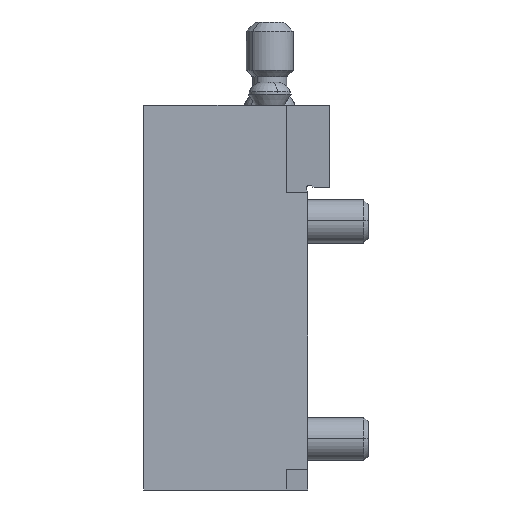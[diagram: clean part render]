
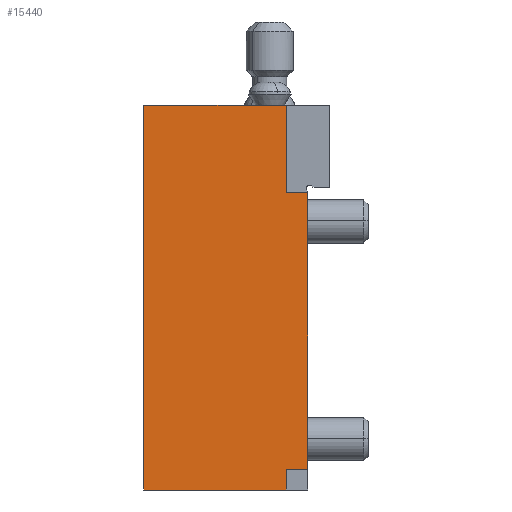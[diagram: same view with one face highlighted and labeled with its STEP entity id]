
A CAD part, left-side view. The second image highlights one B-rep face of the part: STEP entity #15440.
In plain terms, the highlighted planar face has unit normal (-1, 0, 0).
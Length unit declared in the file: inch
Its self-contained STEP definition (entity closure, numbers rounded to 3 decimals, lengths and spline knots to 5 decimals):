
#167 = DIRECTION ( 'NONE',  ( 0., 0., 1. ) ) ;
#743 = VECTOR ( 'NONE', #16013, 39.37008 ) ;
#928 = ORIENTED_EDGE ( 'NONE', *, *, #10709, .F. ) ;
#1351 = EDGE_CURVE ( 'NONE', #2557, #4679, #1993, .T. ) ;
#1543 = LINE ( 'NONE', #4559, #11084 ) ;
#1993 = LINE ( 'NONE', #4901, #18281 ) ;
#2211 = VECTOR ( 'NONE', #13235, 39.37008 ) ;
#2533 = VECTOR ( 'NONE', #4749, 39.37008 ) ;
#2557 = VERTEX_POINT ( 'NONE', #7389 ) ;
#2834 = CARTESIAN_POINT ( 'NONE',  ( -1.77165, -0.55, 2.72 ) ) ;
#3112 = EDGE_LOOP ( 'NONE', ( #928, #18178, #16291, #8480, #13246, #12188, #8167, #12120, #5776 ) ) ;
#3220 = CARTESIAN_POINT ( 'NONE',  ( -1.77165, -0.95, 3.52 ) ) ;
#3839 = VERTEX_POINT ( 'NONE', #12175 ) ;
#4268 = EDGE_CURVE ( 'NONE', #10087, #2557, #13735, .T. ) ;
#4404 = CARTESIAN_POINT ( 'NONE',  ( -1.77165, -0.95, 2.72 ) ) ;
#4515 = EDGE_CURVE ( 'NONE', #18878, #9438, #10335, .T. ) ;
#4559 = CARTESIAN_POINT ( 'NONE',  ( -1.77165, -0.75, 0. ) ) ;
#4679 = VERTEX_POINT ( 'NONE', #4804 ) ;
#4749 = DIRECTION ( 'NONE',  ( 0., 1., 0. ) ) ;
#4804 = CARTESIAN_POINT ( 'NONE',  ( -1.77165, 0.75, 0. ) ) ;
#4901 = CARTESIAN_POINT ( 'NONE',  ( -1.77165, 0.75, 3.52 ) ) ;
#5316 = CARTESIAN_POINT ( 'NONE',  ( -1.77165, -0.95, 3.52 ) ) ;
#5450 = DIRECTION ( 'NONE',  ( 0., -1., 0. ) ) ;
#5616 = EDGE_CURVE ( 'NONE', #13243, #3839, #1543, .T. ) ;
#5640 = LINE ( 'NONE', #11656, #5748 ) ;
#5748 = VECTOR ( 'NONE', #17739, 39.37008 ) ;
#5776 = ORIENTED_EDGE ( 'NONE', *, *, #1351, .T. ) ;
#5823 = EDGE_CURVE ( 'NONE', #9438, #10087, #17532, .T. ) ;
#5851 = CARTESIAN_POINT ( 'NONE',  ( -1.77165, -0.74581, 2.72 ) ) ;
#5859 = EDGE_CURVE ( 'NONE', #18878, #3839, #13333, .T. ) ;
#6621 = CARTESIAN_POINT ( 'NONE',  ( -1.77165, -0.55, 0.19 ) ) ;
#7389 = CARTESIAN_POINT ( 'NONE',  ( -1.77165, 0.75, 3.52 ) ) ;
#7965 = CARTESIAN_POINT ( 'NONE',  ( -1.77165, -0.55, 2.72 ) ) ;
#8167 = ORIENTED_EDGE ( 'NONE', *, *, #5823, .T. ) ;
#8480 = ORIENTED_EDGE ( 'NONE', *, *, #5616, .T. ) ;
#9264 = DIRECTION ( 'NONE',  ( -1., 0., 0. ) ) ;
#9438 = VERTEX_POINT ( 'NONE', #7965 ) ;
#9871 = AXIS2_PLACEMENT_3D ( 'NONE', #3220, #9264, #12410 ) ;
#10072 = DIRECTION ( 'NONE',  ( 0., -0.342, -0.94 ) ) ;
#10087 = VERTEX_POINT ( 'NONE', #15686 ) ;
#10166 = VERTEX_POINT ( 'NONE', #13184 ) ;
#10335 = LINE ( 'NONE', #4404, #12714 ) ;
#10572 = CARTESIAN_POINT ( 'NONE',  ( -1.77165, -0.95, 0. ) ) ;
#10709 = EDGE_CURVE ( 'NONE', #10166, #4679, #18331, .T. ) ;
#10892 = LINE ( 'NONE', #6621, #17145 ) ;
#11084 = VECTOR ( 'NONE', #167, 39.37008 ) ;
#11656 = CARTESIAN_POINT ( 'NONE',  ( -1.77165, -0.55, 0.19 ) ) ;
#12120 = ORIENTED_EDGE ( 'NONE', *, *, #4268, .T. ) ;
#12175 = CARTESIAN_POINT ( 'NONE',  ( -1.77165, -0.75, 2.7085 ) ) ;
#12188 = ORIENTED_EDGE ( 'NONE', *, *, #4515, .T. ) ;
#12310 = PLANE ( 'NONE',  #9871 ) ;
#12410 = DIRECTION ( 'NONE',  ( 0., -1., 0. ) ) ;
#12714 = VECTOR ( 'NONE', #16488, 39.37008 ) ;
#13164 = EDGE_CURVE ( 'NONE', #14226, #13243, #10892, .T. ) ;
#13184 = CARTESIAN_POINT ( 'NONE',  ( -1.77165, -0.55, 0. ) ) ;
#13235 = DIRECTION ( 'NONE',  ( 0., 0., 1. ) ) ;
#13243 = VERTEX_POINT ( 'NONE', #17249 ) ;
#13246 = ORIENTED_EDGE ( 'NONE', *, *, #5859, .F. ) ;
#13333 = LINE ( 'NONE', #16415, #15158 ) ;
#13430 = EDGE_CURVE ( 'NONE', #14226, #10166, #5640, .T. ) ;
#13735 = LINE ( 'NONE', #5316, #743 ) ;
#14226 = VERTEX_POINT ( 'NONE', #18159 ) ;
#15158 = VECTOR ( 'NONE', #10072, 39.37008 ) ;
#15440 = ADVANCED_FACE ( 'NONE', ( #16806 ), #12310, .T. ) ;
#15686 = CARTESIAN_POINT ( 'NONE',  ( -1.77165, -0.55, 3.52 ) ) ;
#16013 = DIRECTION ( 'NONE',  ( 0., 1., 0. ) ) ;
#16291 = ORIENTED_EDGE ( 'NONE', *, *, #13164, .T. ) ;
#16415 = CARTESIAN_POINT ( 'NONE',  ( -1.77165, -0.73681, 2.74474 ) ) ;
#16488 = DIRECTION ( 'NONE',  ( 0., 1., 0. ) ) ;
#16806 = FACE_OUTER_BOUND ( 'NONE', #3112, .T. ) ;
#17145 = VECTOR ( 'NONE', #5450, 39.37008 ) ;
#17182 = DIRECTION ( 'NONE',  ( 0., 0., -1. ) ) ;
#17249 = CARTESIAN_POINT ( 'NONE',  ( -1.77165, -0.75, 0.19 ) ) ;
#17532 = LINE ( 'NONE', #2834, #2211 ) ;
#17739 = DIRECTION ( 'NONE',  ( 0., 0., -1. ) ) ;
#18159 = CARTESIAN_POINT ( 'NONE',  ( -1.77165, -0.55, 0.19 ) ) ;
#18178 = ORIENTED_EDGE ( 'NONE', *, *, #13430, .F. ) ;
#18281 = VECTOR ( 'NONE', #17182, 39.37008 ) ;
#18331 = LINE ( 'NONE', #10572, #2533 ) ;
#18878 = VERTEX_POINT ( 'NONE', #5851 ) ;
